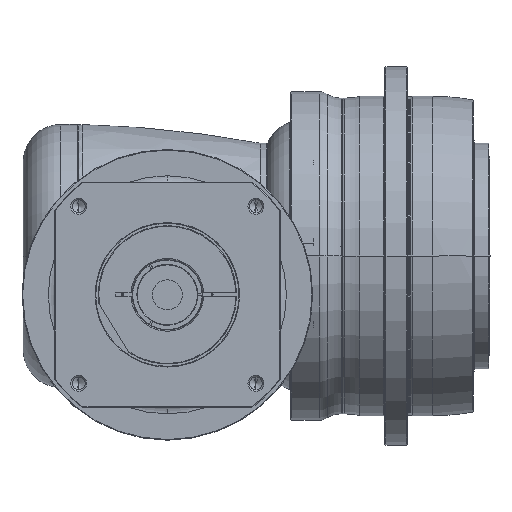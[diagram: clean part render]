
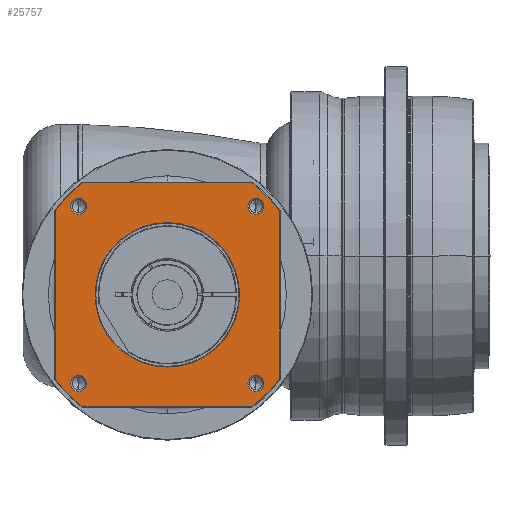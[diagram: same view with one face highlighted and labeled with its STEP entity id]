
A CAD part, front view. The second image highlights one B-rep face of the part: STEP entity #25757.
In plain terms, the highlighted planar face has unit normal (0, -1, 0) as drawn and (0, 0, 1) by its records, which use the part's own axes.
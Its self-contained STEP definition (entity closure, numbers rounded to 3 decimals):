
#24485=DIRECTION('',(1.,0.,0.));
#24486=VECTOR('',#24485,134.666);
#24487=CARTESIAN_POINT('',(-67.333,-89.5,54.));
#24488=LINE('',#24487,#24486);
#24498=CARTESIAN_POINT('',(0.,0.,54.));
#24499=DIRECTION('',(0.,0.,-1.));
#24500=DIRECTION('',(0.,-1.,0.));
#24501=AXIS2_PLACEMENT_3D('',#24498,#24499,#24500);
#24503=CARTESIAN_POINT('',(0.,0.,
54.));
#24504=DIRECTION('',(0.,0.,-1.));
#24505=DIRECTION('',(0.,1.,0.));
#24506=AXIS2_PLACEMENT_3D('',#24503,#24504,#24505);
#24508=CARTESIAN_POINT('',(0.,0.,54.));
#24509=DIRECTION('',(0.,0.,1.));
#24510=DIRECTION('',(-0.799,-0.601,0.));
#24511=AXIS2_PLACEMENT_3D('',#24508,#24509,#24510);
#24523=DIRECTION('',(0.,-1.,0.));
#24524=VECTOR('',#24523,134.666);
#24525=CARTESIAN_POINT('',(-89.5,67.333,54.));
#24526=LINE('',#24525,#24524);
#24536=CARTESIAN_POINT('',(0.,0.,54.));
#24537=DIRECTION('',(0.,0.,1.));
#24538=DIRECTION('',(-0.601,0.799,0.));
#24539=AXIS2_PLACEMENT_3D('',#24536,#24537,#24538);
#24564=DIRECTION('',(-1.,0.,0.));
#24565=VECTOR('',#24564,134.666);
#24566=CARTESIAN_POINT('',(67.333,89.5,54.));
#24567=LINE('',#24566,#24565);
#24572=CARTESIAN_POINT('',(0.,0.,54.));
#24573=DIRECTION('',(0.,0.,1.));
#24574=DIRECTION('',(0.799,0.601,0.));
#24575=AXIS2_PLACEMENT_3D('',#24572,#24573,#24574);
#24587=DIRECTION('',(0.,1.,0.));
#24588=VECTOR('',#24587,134.666);
#24589=CARTESIAN_POINT('',(89.5,-67.333,54.));
#24590=LINE('',#24589,#24588);
#24692=CARTESIAN_POINT('',(0.,0.,54.));
#24693=DIRECTION('',(0.,0.,1.));
#24694=DIRECTION('',(0.601,-0.799,0.));
#24695=AXIS2_PLACEMENT_3D('',#24692,#24693,#24694);
#24974=CARTESIAN_POINT('',(-70.711,70.711,54.));
#24975=DIRECTION('',(0.,0.,1.));
#24976=DIRECTION('',(-1.,0.,0.));
#24977=AXIS2_PLACEMENT_3D('',#24974,#24975,#24976);
#24992=CARTESIAN_POINT('',(-70.711,70.711,54.));
#24993=DIRECTION('',(0.,0.,1.));
#24994=DIRECTION('',(1.,0.,0.));
#24995=AXIS2_PLACEMENT_3D('',#24992,#24993,#24994);
#25028=CARTESIAN_POINT('',(70.711,70.711,54.));
#25029=DIRECTION('',(0.,0.,1.));
#25030=DIRECTION('',(-1.,0.,0.));
#25031=AXIS2_PLACEMENT_3D('',#25028,#25029,#25030);
#25046=CARTESIAN_POINT('',(70.711,70.711,54.));
#25047=DIRECTION('',(0.,0.,1.));
#25048=DIRECTION('',(1.,0.,0.));
#25049=AXIS2_PLACEMENT_3D('',#25046,#25047,#25048);
#25082=CARTESIAN_POINT('',(70.711,-70.711,54.));
#25083=DIRECTION('',(0.,0.,1.));
#25084=DIRECTION('',(-1.,0.,0.));
#25085=AXIS2_PLACEMENT_3D('',#25082,#25083,#25084);
#25100=CARTESIAN_POINT('',(70.711,-70.711,54.));
#25101=DIRECTION('',(0.,0.,1.));
#25102=DIRECTION('',(1.,0.,0.));
#25103=AXIS2_PLACEMENT_3D('',#25100,#25101,#25102);
#25136=CARTESIAN_POINT('',(-70.711,-70.711,54.));
#25137=DIRECTION('',(0.,0.,1.));
#25138=DIRECTION('',(-1.,0.,0.));
#25139=AXIS2_PLACEMENT_3D('',#25136,#25137,#25138);
#25154=CARTESIAN_POINT('',(-70.711,-70.711,54.));
#25155=DIRECTION('',(0.,0.,1.));
#25156=DIRECTION('',(1.,0.,0.));
#25157=AXIS2_PLACEMENT_3D('',#25154,#25155,#25156);
#25198=CARTESIAN_POINT('',(89.5,-67.333,54.));
#25199=CARTESIAN_POINT('',(89.5,67.333,54.));
#25200=VERTEX_POINT('',#25198);
#25201=VERTEX_POINT('',#25199);
#25206=CARTESIAN_POINT('',(67.333,-89.5,54.));
#25207=VERTEX_POINT('',#25206);
#25210=CARTESIAN_POINT('',(-67.333,-89.5,54.));
#25211=VERTEX_POINT('',#25210);
#25214=CARTESIAN_POINT('',(-89.5,-67.333,54.));
#25215=VERTEX_POINT('',#25214);
#25218=CARTESIAN_POINT('',(-89.5,67.333,54.));
#25219=VERTEX_POINT('',#25218);
#25222=CARTESIAN_POINT('',(-67.333,89.5,54.));
#25223=VERTEX_POINT('',#25222);
#25226=CARTESIAN_POINT('',(67.333,89.5,54.));
#25227=VERTEX_POINT('',#25226);
#25276=CARTESIAN_POINT('',(-77.111,70.711,54.));
#25277=CARTESIAN_POINT('',(-64.311,70.711,54.));
#25278=VERTEX_POINT('',#25276);
#25279=VERTEX_POINT('',#25277);
#25310=CARTESIAN_POINT('',(77.111,70.711,54.));
#25311=CARTESIAN_POINT('',(64.311,70.711,54.));
#25312=VERTEX_POINT('',#25310);
#25313=VERTEX_POINT('',#25311);
#25318=CARTESIAN_POINT('',(77.111,-70.711,54.));
#25319=CARTESIAN_POINT('',(64.311,-70.711,54.));
#25320=VERTEX_POINT('',#25318);
#25321=VERTEX_POINT('',#25319);
#25326=CARTESIAN_POINT('',(-64.311,-70.711,54.));
#25327=CARTESIAN_POINT('',(-77.111,-70.711,54.));
#25328=VERTEX_POINT('',#25326);
#25329=VERTEX_POINT('',#25327);
#25334=CARTESIAN_POINT('',(0.,-57.65,54.));
#25335=CARTESIAN_POINT('',(0.,57.65,54.));
#25336=VERTEX_POINT('',#25334);
#25337=VERTEX_POINT('',#25335);
#25705=CARTESIAN_POINT('',(0.,0.,54.));
#25706=DIRECTION('',(0.,0.,1.));
#25707=DIRECTION('',(1.,0.,0.));
#25708=AXIS2_PLACEMENT_3D('',#25705,#25706,#25707);
#25709=PLANE('',#25708);
#25711=ORIENTED_EDGE('',*,*,#25710,.F.);
#25713=ORIENTED_EDGE('',*,*,#25712,.F.);
#25715=ORIENTED_EDGE('',*,*,#25714,.F.);
#25717=ORIENTED_EDGE('',*,*,#25716,.F.);
#25719=ORIENTED_EDGE('',*,*,#25718,.F.);
#25721=ORIENTED_EDGE('',*,*,#25720,.F.);
#25723=ORIENTED_EDGE('',*,*,#25722,.F.);
#25724=ORIENTED_EDGE('',*,*,#25695,.F.);
#25725=EDGE_LOOP('',(#25711,#25713,#25715,#25717,#25719,#25721,#25723,#25724));
#25726=FACE_OUTER_BOUND('',#25725,.F.);
#25728=ORIENTED_EDGE('',*,*,#25727,.F.);
#25730=ORIENTED_EDGE('',*,*,#25729,.F.);
#25731=EDGE_LOOP('',(#25728,#25730));
#25732=FACE_BOUND('',#25731,.F.);
#25734=ORIENTED_EDGE('',*,*,#25733,.T.);
#25736=ORIENTED_EDGE('',*,*,#25735,.T.);
#25737=EDGE_LOOP('',(#25734,#25736));
#25738=FACE_BOUND('',#25737,.F.);
#25740=ORIENTED_EDGE('',*,*,#25739,.T.);
#25742=ORIENTED_EDGE('',*,*,#25741,.T.);
#25743=EDGE_LOOP('',(#25740,#25742));
#25744=FACE_BOUND('',#25743,.F.);
#25746=ORIENTED_EDGE('',*,*,#25745,.T.);
#25748=ORIENTED_EDGE('',*,*,#25747,.T.);
#25749=EDGE_LOOP('',(#25746,#25748));
#25750=FACE_BOUND('',#25749,.F.);
#25752=ORIENTED_EDGE('',*,*,#25751,.T.);
#25754=ORIENTED_EDGE('',*,*,#25753,.T.);
#25755=EDGE_LOOP('',(#25752,#25754));
#25756=FACE_BOUND('',#25755,.F.);
#25757=ADVANCED_FACE('',(#25726,#25732,#25738,#25744,#25750,#25756),#25709,.T.);
#24502=CIRCLE('',#24501,57.65);
#24507=CIRCLE('',#24506,57.65);
#24512=CIRCLE('',#24511,112.);
#24540=CIRCLE('',#24539,112.);
#24576=CIRCLE('',#24575,112.);
#24696=CIRCLE('',#24695,112.);
#24978=CIRCLE('',#24977,6.4);
#24996=CIRCLE('',#24995,6.4);
#25032=CIRCLE('',#25031,6.4);
#25050=CIRCLE('',#25049,6.4);
#25086=CIRCLE('',#25085,6.4);
#25104=CIRCLE('',#25103,6.4);
#25140=CIRCLE('',#25139,6.4);
#25158=CIRCLE('',#25157,6.4);
#25695=EDGE_CURVE('',#25211,#25207,#24488,.T.);
#25710=EDGE_CURVE('',#25215,#25211,#24512,.T.);
#25712=EDGE_CURVE('',#25219,#25215,#24526,.T.);
#25714=EDGE_CURVE('',#25223,#25219,#24540,.T.);
#25716=EDGE_CURVE('',#25227,#25223,#24567,.T.);
#25718=EDGE_CURVE('',#25201,#25227,#24576,.T.);
#25720=EDGE_CURVE('',#25200,#25201,#24590,.T.);
#25722=EDGE_CURVE('',#25207,#25200,#24696,.T.);
#25727=EDGE_CURVE('',#25336,#25337,#24502,.T.);
#25729=EDGE_CURVE('',#25337,#25336,#24507,.T.);
#25733=EDGE_CURVE('',#25278,#25279,#24978,.T.);
#25735=EDGE_CURVE('',#25279,#25278,#24996,.T.);
#25739=EDGE_CURVE('',#25313,#25312,#25032,.T.);
#25741=EDGE_CURVE('',#25312,#25313,#25050,.T.);
#25745=EDGE_CURVE('',#25321,#25320,#25086,.T.);
#25747=EDGE_CURVE('',#25320,#25321,#25104,.T.);
#25751=EDGE_CURVE('',#25329,#25328,#25140,.T.);
#25753=EDGE_CURVE('',#25328,#25329,#25158,.T.);
